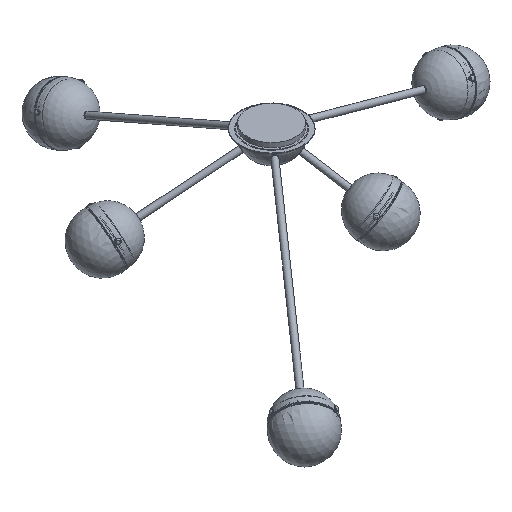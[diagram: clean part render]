
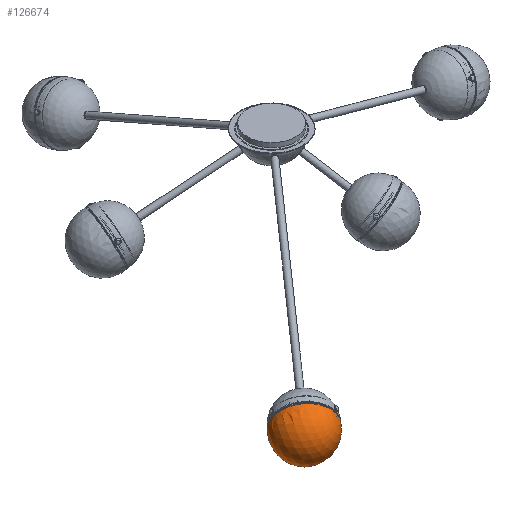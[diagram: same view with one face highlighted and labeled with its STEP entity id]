
A CAD part, isometric view. The second image highlights one B-rep face of the part: STEP entity #126674.
In plain terms, the highlighted spherical face has radius 60 mm.
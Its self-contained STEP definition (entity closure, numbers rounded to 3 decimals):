
#8865=FACE_BOUND('',#24104,.T.);
#8904=SPHERICAL_SURFACE('',#137307,60.);
#16448=FACE_OUTER_BOUND('',#24103,.T.);
#24103=EDGE_LOOP('',(#118007,#118008));
#24104=EDGE_LOOP('',(#118009));
#55411=CIRCLE('',#137306,59.537);
#55412=CIRCLE('',#137308,60.);
#66779=VERTEX_POINT('',#213523);
#66780=VERTEX_POINT('',#213527);
#66781=VERTEX_POINT('',#213528);
#83865=EDGE_CURVE('',#66779,#66779,#55411,.T.);
#83866=EDGE_CURVE('',#66780,#66781,#55412,.T.);
#118007=ORIENTED_EDGE('',*,*,#83866,.T.);
#118008=ORIENTED_EDGE('',*,*,#83866,.F.);
#118009=ORIENTED_EDGE('',*,*,#83865,.F.);
#126674=ADVANCED_FACE('',(#16448,#8865),#8904,.T.);
#137306=AXIS2_PLACEMENT_3D('',#213525,#171145,#171146);
#137307=AXIS2_PLACEMENT_3D('',#213526,#171147,#171148);
#137308=AXIS2_PLACEMENT_3D('',#213529,#171149,#171150);
#171145=DIRECTION('center_axis',(0.62,0.738,0.267));
#171146=DIRECTION('ref_axis',(-0.537,0.15,0.83));
#171147=DIRECTION('center_axis',(-0.573,0.657,-0.489));
#171148=DIRECTION('ref_axis',(0.537,-0.15,-0.83));
#171149=DIRECTION('center_axis',(0.62,0.738,0.267));
#171150=DIRECTION('ref_axis',(-0.537,0.15,0.83));
#213523=CARTESIAN_POINT('',(-419.378,-420.,76.76));
#213525=CARTESIAN_POINT('Origin',(-385.268,-459.145,105.895));
#213526=CARTESIAN_POINT('Origin',(-389.878,-464.639,103.911));
#213527=CARTESIAN_POINT('',(-424.253,-425.19,74.549));
#213528=CARTESIAN_POINT('',(-355.503,-504.088,133.273));
#213529=CARTESIAN_POINT('Origin',(-389.878,-464.639,103.911));
